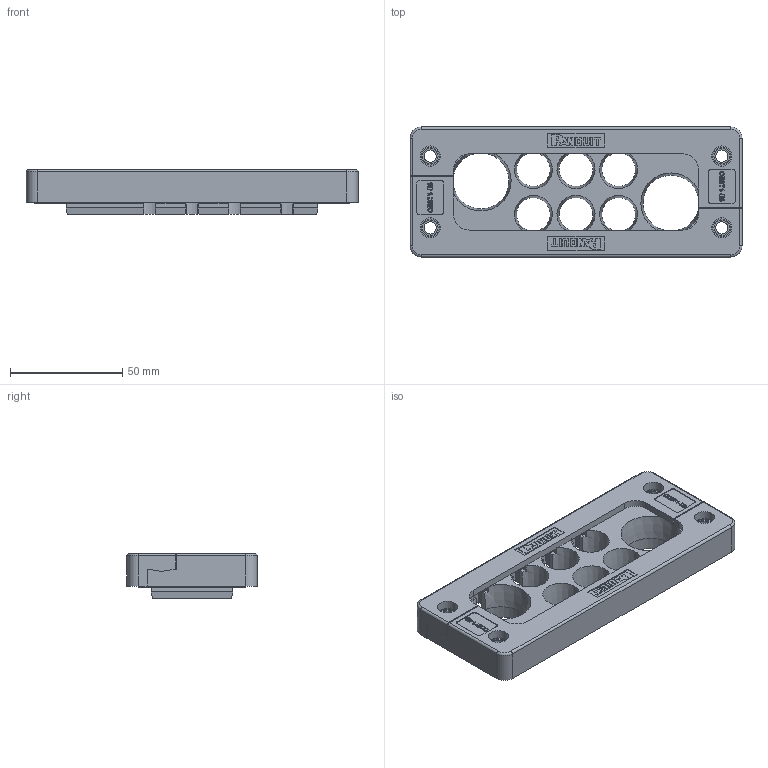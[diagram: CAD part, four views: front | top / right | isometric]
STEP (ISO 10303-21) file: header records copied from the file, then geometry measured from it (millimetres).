
FILE_DESCRIPTION(/* description */ (''),/* implementation_level */ '2;1');
FILE_NAME(/* name */ 'H:\SapWorkDir\Inventor\MP1\ConvertTempPath\87_11_121452_00_A_220620_KDL-C 24-8 ZSB.stp',/* time_stamp */ '2022-06-20T08:30:56+02:00',/* author */ ('BAUER'),/* organization */ (''),/* preprocessor_version */ 'ST-DEVELOPER v16.13',/* originating_system */ 'Autodesk Inventor 2018',/* authorisation */ '');
FILE_SCHEMA (('AUTOMOTIVE_DESIGN { 1 0 10303 214 3 1 1 }'));
Length unit declared in the file: millimetre
Products named in the file (3): 121452; 120123_Tüllenblock_2_6; 121399
Assembly tree (3 placements, depth 2):
  121452
    120123_Tüllenblock_2_6
    121399  x2
Bounding box: 148 x 58 x 20 mm (x, y, z)
Volume: 88010.4 mm3; surface area: 46201.7 mm2
Topology: 3 solids, 3 shells, 1070 faces, 2888 edges, 1900 vertices
Faces by surface type: plane 698, cylinder 176, bspline 154, torus 20, cone 14, sphere 8
Full cylindrical faces by diameter (mm): 5 x4, 5.5 x10, 6 x2, 7 x4, 8 x4, 9 x4
Entity records: 24504 total; most frequent: CARTESIAN_POINT 5583, ORIENTED_EDGE 4024, DIRECTION 3478, EDGE_CURVE 2012, LINE 1436, VECTOR 1436, VERTEX_POINT 1331, AXIS2_PLACEMENT_3D 1021
